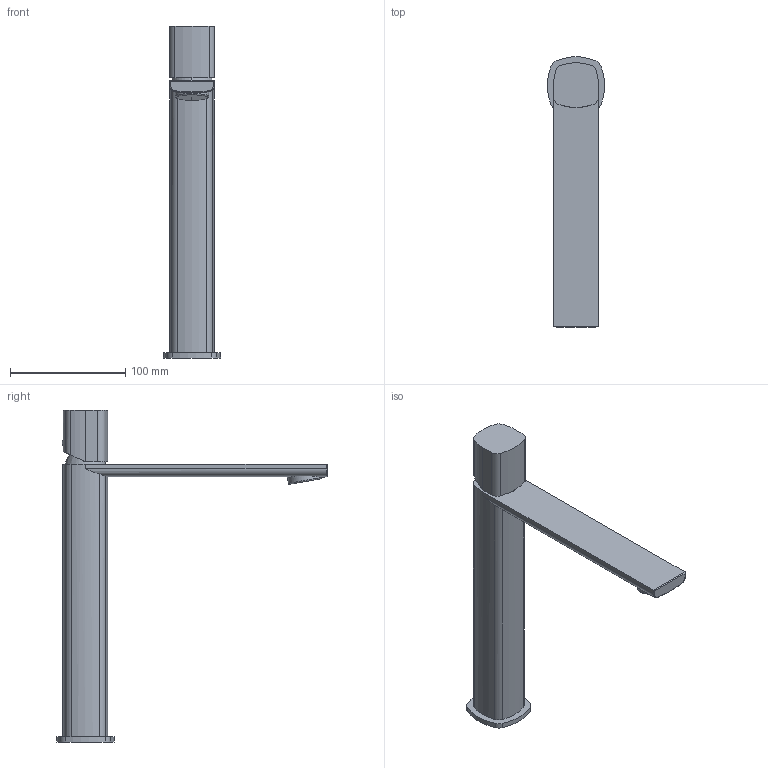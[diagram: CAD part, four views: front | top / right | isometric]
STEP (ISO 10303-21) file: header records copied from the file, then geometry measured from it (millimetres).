
FILE_DESCRIPTION(('FreeCAD Model'),'2;1');
FILE_NAME('Open CASCADE Shape Model','2024-11-19T13:53:42',('Author'),( ''),'Open CASCADE STEP processor 7.6','FreeCAD','Unknown');
FILE_SCHEMA(('AUTOMOTIVE_DESIGN { 1 0 10303 214 1 1 1 1 }'));
Length unit declared in the file: millimetre
Products named in the file (3): TopLevelAssembly; Obrót profilu; Połączona geometria bryłowa
Assembly tree (2 placements, depth 2):
  TopLevelAssembly
    Obrót profilu
    Połączona geometria bryłowa
Bounding box: 49.71 x 234.85 x 288.29 mm (x, y, z)
Volume: 462597.1 mm3; surface area: 61606 mm2
Topology: 2 solids, 2 shells, 63 faces, 152 edges, 94 vertices
Faces by surface type: cylinder 37, plane 17, bspline 9
Entity records: 2092 total; most frequent: CARTESIAN_POINT 569, DIRECTION 324, ORIENTED_EDGE 300, EDGE_CURVE 150, AXIS2_PLACEMENT_3D 134, VERTEX_POINT 94, CIRCLE 70, FACE_BOUND 66
